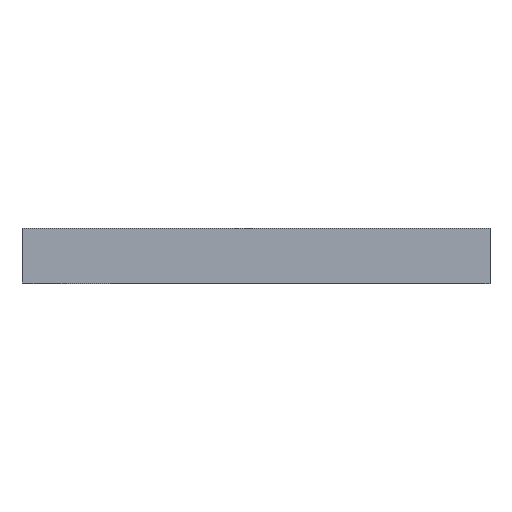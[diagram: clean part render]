
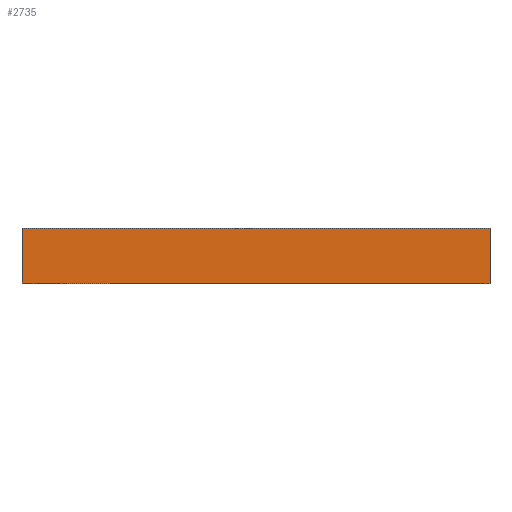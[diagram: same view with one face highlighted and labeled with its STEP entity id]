
A CAD part, top view. The second image highlights one B-rep face of the part: STEP entity #2735.
In plain terms, the highlighted planar face has unit normal (0, 0, 1).
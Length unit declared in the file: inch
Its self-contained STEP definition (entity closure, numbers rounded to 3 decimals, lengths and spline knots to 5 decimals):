
#92 = ORIENTED_EDGE ( 'NONE', *, *, #679, .F. ) ;
#126 = ORIENTED_EDGE ( 'NONE', *, *, #1279, .T. ) ;
#178 = AXIS2_PLACEMENT_3D ( 'NONE', #5785, #2111, #4380 ) ;
#380 = DIRECTION ( 'NONE',  ( 1., 0., 0. ) ) ;
#557 = CARTESIAN_POINT ( 'NONE',  ( 4., 0., 2.0625 ) ) ;
#679 = EDGE_CURVE ( 'NONE', #1005, #1167, #1827, .T. ) ;
#720 = FACE_OUTER_BOUND ( 'NONE', #4028, .T. ) ;
#742 = VECTOR ( 'NONE', #2952, 39.37008 ) ;
#749 = VECTOR ( 'NONE', #983, 39.37008 ) ;
#983 = DIRECTION ( 'NONE',  ( -1., 0., 0. ) ) ;
#1005 = VERTEX_POINT ( 'NONE', #2193 ) ;
#1167 = VERTEX_POINT ( 'NONE', #5812 ) ;
#1279 = EDGE_CURVE ( 'NONE', #2414, #1167, #2449, .T. ) ;
#1285 = CARTESIAN_POINT ( 'NONE',  ( 0., 0.46094, 2.0625 ) ) ;
#1435 = VECTOR ( 'NONE', #3126, 39.37008 ) ;
#1779 = ORIENTED_EDGE ( 'NONE', *, *, #2915, .F. ) ;
#1827 = LINE ( 'NONE', #1285, #5228 ) ;
#2111 = DIRECTION ( 'NONE',  ( 0., 0., 1. ) ) ;
#2193 = CARTESIAN_POINT ( 'NONE',  ( 0., 0.46094, 2.0625 ) ) ;
#2197 = CARTESIAN_POINT ( 'NONE',  ( 0., -0.00781, 2.0625 ) ) ;
#2414 = VERTEX_POINT ( 'NONE', #4155 ) ;
#2449 = LINE ( 'NONE', #557, #742 ) ;
#2490 = EDGE_CURVE ( 'NONE', #2414, #2713, #3198, .T. ) ;
#2494 = ORIENTED_EDGE ( 'NONE', *, *, #2490, .F. ) ;
#2554 = PLANE ( 'NONE',  #178 ) ;
#2713 = VERTEX_POINT ( 'NONE', #2197 ) ;
#2735 = ADVANCED_FACE ( 'NONE', ( #720 ), #2554, .T. ) ;
#2915 = EDGE_CURVE ( 'NONE', #2713, #1005, #5519, .T. ) ;
#2952 = DIRECTION ( 'NONE',  ( 0., 1., 0. ) ) ;
#3126 = DIRECTION ( 'NONE',  ( 0., 1., 0. ) ) ;
#3198 = LINE ( 'NONE', #5074, #749 ) ;
#4028 = EDGE_LOOP ( 'NONE', ( #1779, #2494, #126, #92 ) ) ;
#4155 = CARTESIAN_POINT ( 'NONE',  ( 4., -0.00781, 2.0625 ) ) ;
#4380 = DIRECTION ( 'NONE',  ( 1., 0., 0. ) ) ;
#5074 = CARTESIAN_POINT ( 'NONE',  ( 4., -0.00781, 2.0625 ) ) ;
#5228 = VECTOR ( 'NONE', #380, 39.37008 ) ;
#5519 = LINE ( 'NONE', #5877, #1435 ) ;
#5785 = CARTESIAN_POINT ( 'NONE',  ( 4., 0., 2.0625 ) ) ;
#5812 = CARTESIAN_POINT ( 'NONE',  ( 4., 0.46094, 2.0625 ) ) ;
#5877 = CARTESIAN_POINT ( 'NONE',  ( 0., 0., 2.0625 ) ) ;
